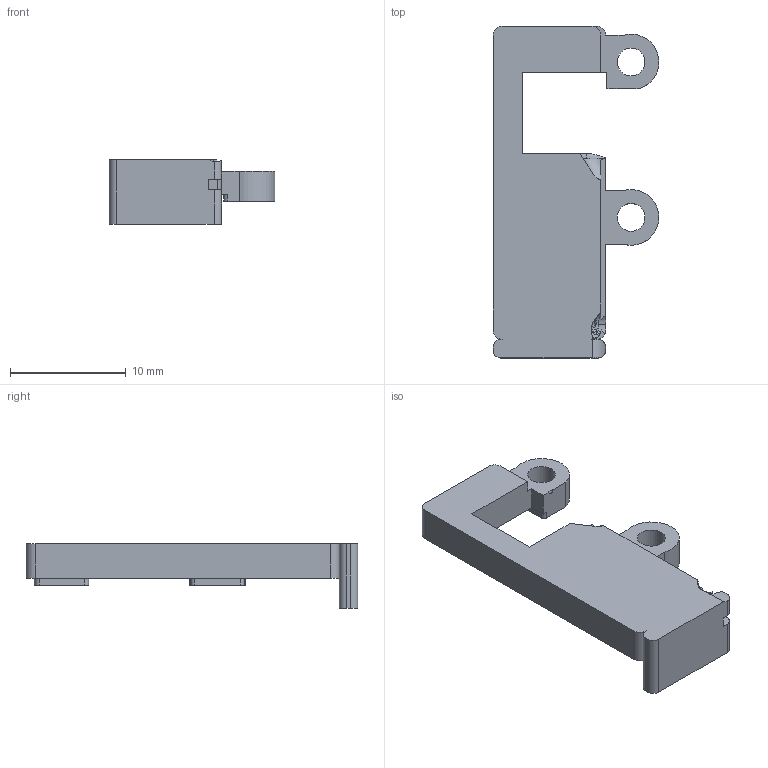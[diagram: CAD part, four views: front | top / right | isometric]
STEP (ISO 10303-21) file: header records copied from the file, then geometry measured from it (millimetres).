
FILE_DESCRIPTION(('Open CASCADE Model'),'2;1');
FILE_NAME('Open CASCADE Shape Model','2026-09-16T15:34:22',('Author'),( 'Open CASCADE'),'Open CASCADE STEP processor 7.7','Open CASCADE 7.7' ,'Unknown');
FILE_SCHEMA(('AUTOMOTIVE_DESIGN { 1 0 10303 214 1 1 1 1 }'));
Length unit declared in the file: millimetre
Products named in the file (1): COMPOUND
Bounding box: 14.3 x 28.62 x 5.6 mm (x, y, z)
Volume: 777.8 mm3; surface area: 933.6 mm2
Topology: 1 solids, 1 shells, 88 faces, 247 edges, 161 vertices
Faces by surface type: plane 37, cylinder 30, sphere 18, torus 3
Full cylindrical faces by diameter (mm): 2.4 x2
Entity records: 11236 total; most frequent: CARTESIAN_POINT 6538, DIRECTION 820, ORIENTED_EDGE 494, PCURVE 494, DEFINITIONAL_REPRESENTATION 494, LINE 400, VECTOR 400, EDGE_CURVE 247
